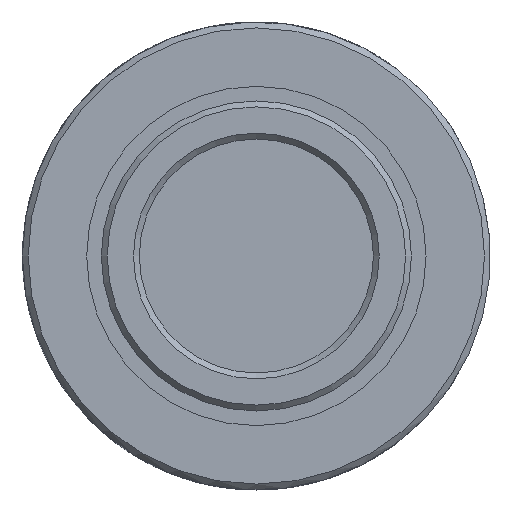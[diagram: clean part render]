
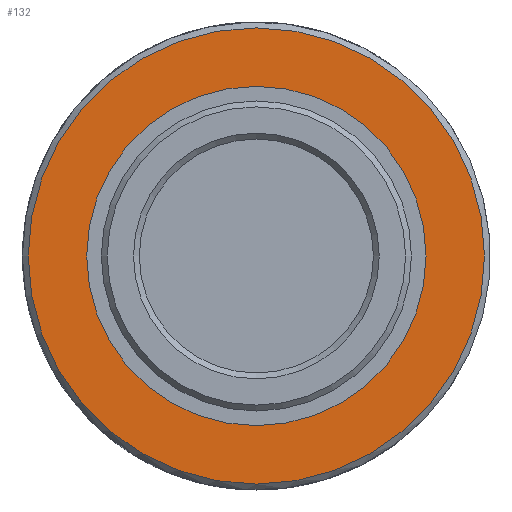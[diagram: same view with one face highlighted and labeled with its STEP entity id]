
A CAD part, left-side view. The second image highlights one B-rep face of the part: STEP entity #132.
In plain terms, the highlighted planar face has unit normal (-1, 0, 0).
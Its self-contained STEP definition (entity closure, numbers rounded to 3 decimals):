
#132=ADVANCED_FACE('',(#249,#250),#251,.F.);
#249=FACE_OUTER_BOUND('',#392,.T.);
#250=FACE_BOUND('',#393,.T.);
#251=PLANE('',#394);
#392=EDGE_LOOP('',(#745));
#393=EDGE_LOOP('',(#746));
#394=AXIS2_PLACEMENT_3D('',#747,#748,#749);
#745=ORIENTED_EDGE('',*,*,#927,.T.);
#746=ORIENTED_EDGE('',*,*,#928,.F.);
#747=CARTESIAN_POINT('',(-150.0,40.0,0.0));
#748=DIRECTION('',(1.0,0.,0.));
#749=DIRECTION('',(0.,1.0,0.));
#927=EDGE_CURVE('',#1122,#1122,#1123,.T.);
#928=EDGE_CURVE('',#1124,#1124,#1125,.T.);
#1122=VERTEX_POINT('',#1790);
#1123=CIRCLE('',#1791,39.0);
#1124=VERTEX_POINT('',#1792);
#1125=CIRCLE('',#1793,29.0);
#1790=CARTESIAN_POINT('',(-150.0,39.0,0.));
#1791=AXIS2_PLACEMENT_3D('',#1963,#1964,#1965);
#1792=CARTESIAN_POINT('',(-150.0,-29.0,0.0));
#1793=AXIS2_PLACEMENT_3D('',#1966,#1967,#1968);
#1963=CARTESIAN_POINT('',(-150.0,0.,0.0));
#1964=DIRECTION('',(-1.0,0.,0.0));
#1965=DIRECTION('',(0.,1.0,0.0));
#1966=CARTESIAN_POINT('',(-150.0,0.,0.0));
#1967=DIRECTION('',(-1.0,0.,0.0));
#1968=DIRECTION('',(0.,-1.0,0.0));
